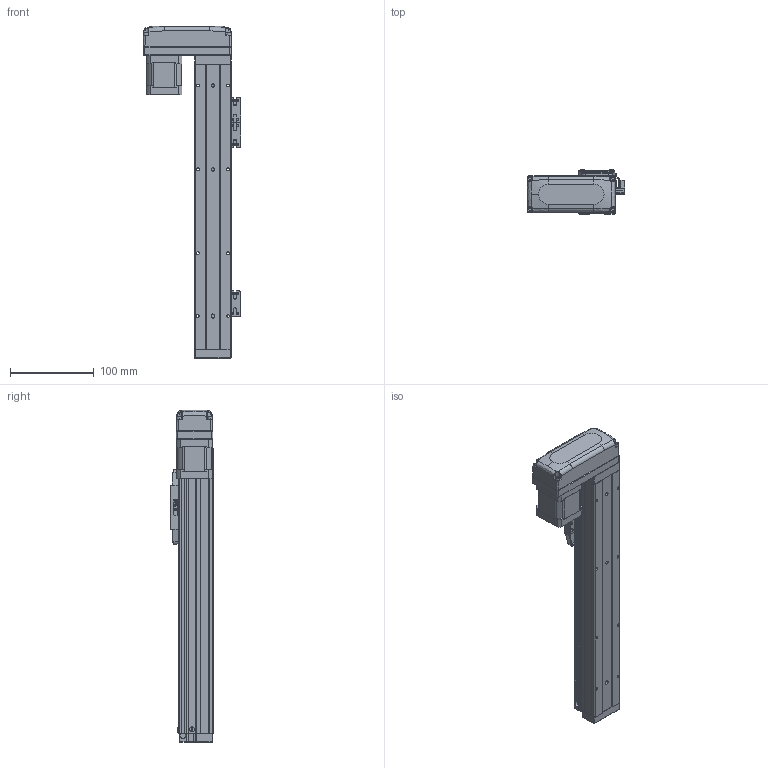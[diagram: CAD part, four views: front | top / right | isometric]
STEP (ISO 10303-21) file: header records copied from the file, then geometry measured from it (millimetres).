
FILE_DESCRIPTION (( 'STEP AP203' ), '1' );
FILE_NAME ('GTH4-200-BR-B42-C4.step', '2023-02-14T00:25:35', ( '微软用户' ), ( '微软中国' ), 'SwSTEP 2.0', 'SolidWorks 2020', '' );
FILE_SCHEMA (( 'CONFIG_CONTROL_DESIGN' ));
Length unit declared in the file: millimetre
Products named in the file (19): BTH50-028; BTH40-004; BTH50-023; BTH40-013; BTH40-001-50_BTH40-001-200; BTH50-024; GBT 70.3-M3℅6; BTH40-003; GBT 70.1-M3℅6; BTH40-027-1; BTH40-006; GBT96.1-2002 3×0.8; BTH50-026; BTH-M3X5X6; BTH40-022; 42CM06; GBT70.1-2000 M3×16; GBT 70.1-M2.5×6; GTH4-200-BR-B42-C4
Assembly tree (47 placements, depth 2):
  GTH4-200-BR-B42-C4
    BTH40-001-50_BTH40-001-200
    BTH40-003
    BTH40-006
    BTH-M3X5X6  x8
    GBT70.1-2000 M3×16  x4
    BTH50-028  x2
    BTH50-023  x3
    BTH50-024  x3
    GBT 70.1-M3℅6  x6
    GBT96.1-2002 3×0.8  x6
    BTH40-022
    GBT 70.1-M2.5×6  x2
    BTH40-004
    BTH40-013
    GBT 70.3-M3℅6  x4
    BTH40-027-1
    BTH50-026
    42CM06
Bounding box: 116.2 x 52 x 396 mm (x, y, z)
Volume: 782645.2 mm3; surface area: 178346.4 mm2
Topology: 56 solids, 56 shells, 3327 faces, 7748 edges, 4630 vertices
Faces by surface type: cone 1508, plane 1076, cylinder 565, torus 124, bspline 42, sphere 12
Entity records: 77594 total; most frequent: CARTESIAN_POINT 13993, DIRECTION 13789, ORIENTED_EDGE 12142, EDGE_CURVE 6071, AXIS2_PLACEMENT_3D 5289, VERTEX_POINT 3617, LINE 3211, VECTOR 3211
